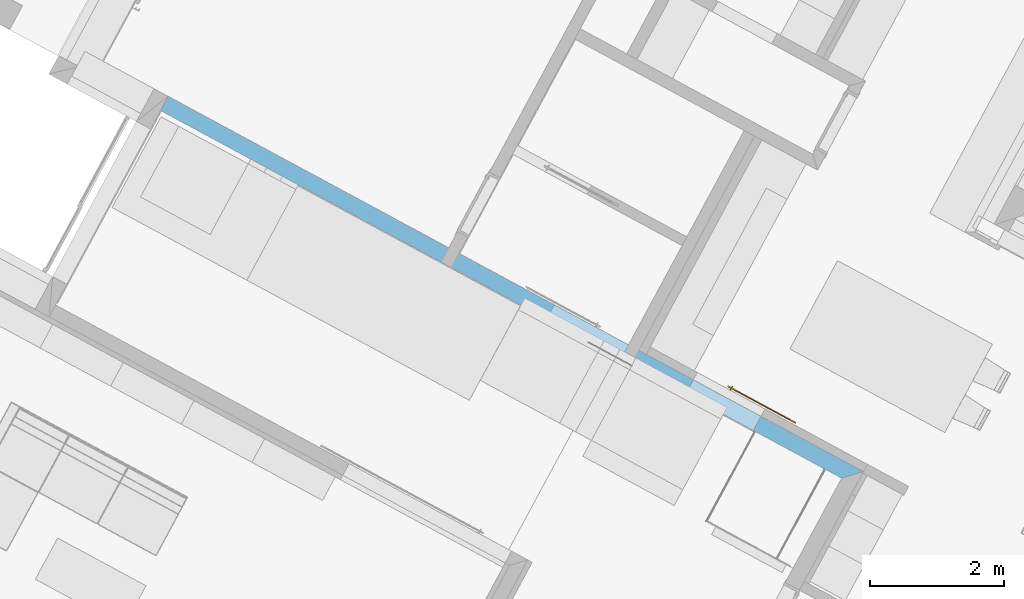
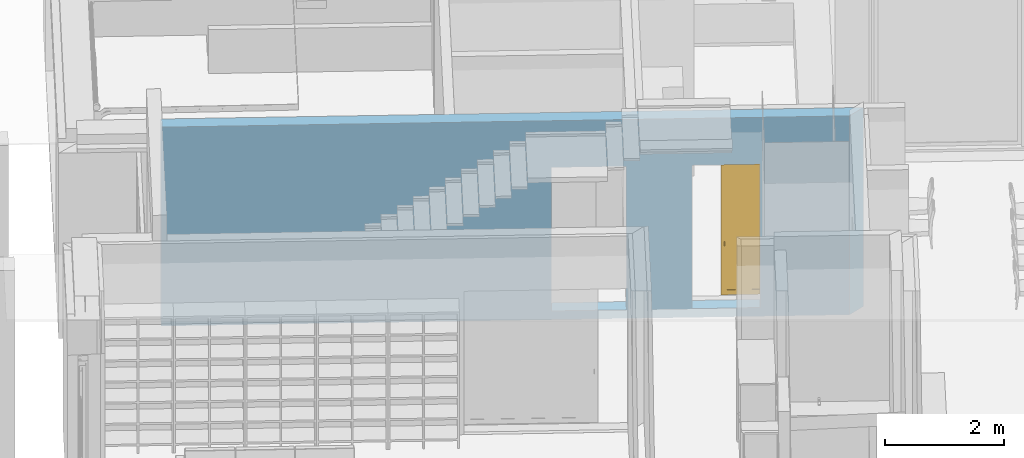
# One storey, part 7 of 36: 1 door, 2 openings, plus 1 element that does not belong to this part.
"""IFC2X3 building model written with IfcOpenShell, lengths in metres."""

from ifc_helpers import new_model, entity, si_unit, converted_unit, derived_unit, money_unit, direction, frame, origin_with_axes, origin_2d_with_axis, place, context, subcontext, project, spatial, polyline, rectangle, outline, extrude, faceted_brep, material, layer, layer_set, layer_usage, type_object, element, fill, save


model = new_model("IFC2X3")

# Units and contexts
model_context = context("Model", 3, precision=1e-05, world=origin_with_axes(), true_north=direction((0.0, 1.0)))
body_context = subcontext(model_context, "Body", "Model", "MODEL_VIEW")
ifc_project = project(units=[si_unit("LENGTHUNIT", "METRE"), si_unit("AREAUNIT", "SQUARE_METRE"), si_unit("VOLUMEUNIT", "CUBIC_METRE"), converted_unit("PLANEANGLEUNIT", "DEGREE", entity("IfcPlaneAngleMeasure", 0.0174532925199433), si_unit("PLANEANGLEUNIT", "RADIAN"), dimensions=[0, 0, 0, 0, 0, 0, 0]), money_unit("EUR"), converted_unit("TIMEUNIT", "Year", entity("IfcTimeMeasure", 31556926.0), si_unit("TIMEUNIT", "SECOND"), dimensions=[0, 0, 1, 0, 0, 0, 0]), si_unit("MASSUNIT", "GRAM", prefix="KILO"), si_unit("THERMODYNAMICTEMPERATUREUNIT", "DEGREE_CELSIUS"), si_unit("LUMINOUSINTENSITYUNIT", "LUMEN"), si_unit("ENERGYUNIT", "JOULE", prefix="MEGA"), derived_unit("THERMALCONDUCTANCEUNIT", [(si_unit("POWERUNIT", "WATT"), 1), (si_unit("LENGTHUNIT", "METRE"), -1), (si_unit("THERMODYNAMICTEMPERATUREUNIT", "KELVIN"), -1)]), derived_unit("SPECIFICHEATCAPACITYUNIT", [(si_unit("ENERGYUNIT", "JOULE"), 1), (si_unit("MASSUNIT", "GRAM", prefix="KILO"), -1), (si_unit("THERMODYNAMICTEMPERATUREUNIT", "KELVIN"), -1)]), derived_unit("MASSDENSITYUNIT", [(si_unit("MASSUNIT", "GRAM", prefix="KILO"), 1), (si_unit("VOLUMEUNIT", "CUBIC_METRE"), -1)])], contexts=[model_context])

# Site, building, storey
site_placement = place(None, frame((-3.949935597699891, 1.740105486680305, 0.0), z_axis=(0.0, 0.0, 1.0), x_axis=(0.8799804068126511, -0.475009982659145, 0.0)))
site = spatial("IfcSite", under=ifc_project, at=site_placement, Name="Gelände", CompositionType="ELEMENT")
building_placement = place(site_placement, origin_with_axes())
building = spatial("IfcBuilding", under=site, at=building_placement, Name="Gebäude", CompositionType="ELEMENT")
storey_placement = place(building_placement, origin_with_axes())
storey = spatial("IfcBuildingStorey", under=building, at=storey_placement, Name="Erdgeschoss", CompositionType="ELEMENT", Elevation=0.0)

# Wall, openings, door
ifc_material = material(Name="_SIWH - Beton, Stahlbeton")
ifc_layer = layer(ifc_material, 0.24, ventilated="UNKNOWN")
ifc_layer_set = layer_set([ifc_layer], Name="_SIWH - WI | Stb. 24 | 24cm")
ifc_layer_usage = layer_usage(ifc_layer_set, "AXIS2", "NEGATIVE", 0.0)
wall_type = type_object("IfcWallType", Name="_SIWH - WI | Stb. 24 | 24cm 240", PredefinedType="NOTDEFINED")
wall_placement = place(storey_placement, frame((5.59748143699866, 10.89780061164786, -0.18), z_axis=(0.0, 0.0, 1.0), x_axis=(0.9999999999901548, 4.437408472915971e-06, 0.0)))
wall = element("IfcWallStandardCase", 1, at=wall_placement, inside=storey, type_object=wall_type, material=ifc_layer_usage, Name="I-Wand005", ObjectType="NOTDEFINED", context=body_context, shape_type="SweptSolid", body=[
    extrude(outline(polyline([(0.0, -0.240000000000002), (11.57000574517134, -0.240000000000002), (11.81000681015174, 0.0), (0.0, 0.0), (0.0, -0.240000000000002)])), origin_with_axes(), (0.0, 0.0, 1.0), 4.080000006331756),
])
opening_1_placement = place(wall_placement, frame((7.190006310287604, 0.0, 0.18), z_axis=(0.0, 0.0, 1.0), x_axis=(1.0, 0.0, 0.0)))
element("IfcOpeningElement", 2, at=opening_1_placement, cuts=wall, Name="I-Wand061", context=body_context, shape_type="SweptSolid", body=[
    extrude(rectangle(XDim=1.260000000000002, YDim=2.94, at=origin_2d_with_axis()), frame((1.153655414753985e-06, 0.01996809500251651, 1.47), z_axis=(4.437408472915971e-06, 0.9999999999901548, 0.0), x_axis=(0.9999999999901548, -4.437408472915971e-06, 0.0)), (0.0, 0.0, -1.0), 0.5),
    extrude(rectangle(XDim=1.260000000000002, YDim=2.94, at=origin_2d_with_axis()), frame((1.153655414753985e-06, 0.01996809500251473, 1.47), z_axis=(-4.437408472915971e-06, -0.9999999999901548, 0.0), x_axis=(0.9999999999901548, -4.437408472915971e-06, 0.0)), (0.0, 0.0, -1.0), 0.26),
])
opening_2_placement = place(wall_placement, frame((9.495005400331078, 0.0, 0.18), z_axis=(0.0, 0.0, 1.0), x_axis=(1.0, 0.0, 0.0)))
opening_2 = element("IfcOpeningElement", 3, at=opening_2_placement, cuts=wall, Name="I-Wand062", context=body_context, shape_type="SweptSolid", body=[
    extrude(rectangle(XDim=1.149999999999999, YDim=2.94, at=origin_2d_with_axis()), frame((0.0, -0.2400000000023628, 1.47), z_axis=(-4.437408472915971e-06, -0.9999999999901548, 0.0), x_axis=(-0.9999999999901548, 4.437408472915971e-06, 0.0)), (0.0, 0.0, -1.0), 0.895),
])
door_style = type_object("IfcDoorStyle", Name="Schiebetür 02 1-Fl 26", ConstructionType="NOTDEFINED", OperationType="SLIDING_TO_LEFT", ParameterTakesPrecedence=False, Sizeable=False)
door_placement = place(opening_2_placement, frame((-0.5750000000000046, 0.0, 0.0), z_axis=(0.0, 0.0, 1.0), x_axis=(1.0, 0.0, 0.0)))
door = element("IfcDoor", 4, at=door_placement, inside=storey, type_object=door_style, Name="I-Wand062", ObjectType="DOOR", OverallHeight=2.94, OverallWidth=1.15, context=body_context, shape_type="Brep", body=[
    faceted_brep([(1.64995181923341, 0.1699530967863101, 0.09999999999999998), (1.64995173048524, 0.1499530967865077, 0.09999999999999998), (1.549951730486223, 0.1499535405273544, 0.09999999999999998), (1.549951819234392, 0.1699535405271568, 0.09999999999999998), (1.64995181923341, 0.1699530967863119, 2.8399), (1.64995173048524, 0.1499530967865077, 2.8399), (1.549951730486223, 0.1499535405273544, 2.8399), (1.549951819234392, 0.1699535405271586, 2.8399)], [[[0, 1, 2, 3]], [[4, 5, 1, 0]], [[1, 5, 6, 2]], [[3, 2, 6, 7]], [[0, 3, 7, 4]], [[7, 6, 5, 4]]]),
    faceted_brep([(0.5000518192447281, 0.1699581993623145, 2.8399), (0.5000517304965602, 0.1499581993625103, 2.8399), (0.6000517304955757, 0.1499577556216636, 2.8399), (0.6000518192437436, 0.1699577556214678, 2.8399), (0.5000518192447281, 0.1699581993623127, 0.09999999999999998), (0.5000517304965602, 0.1499581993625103, 0.09999999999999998), (0.6000517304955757, 0.1499577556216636, 0.09999999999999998), (0.6000518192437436, 0.169957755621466, 0.09999999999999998)], [[[0, 1, 2, 3]], [[4, 5, 1, 0]], [[1, 5, 6, 2]], [[3, 2, 6, 7]], [[0, 3, 7, 4]], [[7, 6, 5, 4]]]),
    faceted_brep([(0.5000518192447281, 0.1699581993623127, 0.0), (0.5000517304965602, 0.1499581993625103, 0.0), (0.5000517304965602, 0.1499581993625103, 0.09999999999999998), (0.5000518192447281, 0.1699581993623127, 0.09999999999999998), (1.64995181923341, 0.1699530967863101, 0.0), (1.64995173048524, 0.1499530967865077, 0.0), (1.64995173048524, 0.1499530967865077, 0.09999999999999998), (1.549951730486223, 0.1499535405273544, 0.09999999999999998), (0.6000517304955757, 0.1499577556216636, 0.09999999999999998), (0.6000518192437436, 0.169957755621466, 0.09999999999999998), (1.549951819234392, 0.1699535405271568, 0.09999999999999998), (1.64995181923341, 0.1699530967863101, 0.09999999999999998)], [[[0, 1, 2, 3]], [[4, 5, 1, 0]], [[1, 5, 6, 7, 8, 2]], [[3, 2, 8, 9]], [[0, 3, 9, 10, 11, 4]], [[11, 6, 5, 4]], [[10, 7, 6, 11]], [[9, 8, 7, 10]]]),
    faceted_brep([(1.64995181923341, 0.1699530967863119, 2.9399), (1.64995173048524, 0.1499530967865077, 2.9399), (1.64995173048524, 0.1499530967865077, 2.8399), (1.64995181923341, 0.1699530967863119, 2.8399), (0.5000518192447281, 0.1699581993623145, 2.9399), (0.5000517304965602, 0.1499581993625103, 2.9399), (0.5000517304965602, 0.1499581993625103, 2.8399), (0.6000517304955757, 0.1499577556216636, 2.8399), (1.549951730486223, 0.1499535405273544, 2.8399), (1.549951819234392, 0.1699535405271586, 2.8399), (0.6000518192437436, 0.1699577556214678, 2.8399), (0.5000518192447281, 0.1699581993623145, 2.8399)], [[[0, 1, 2, 3]], [[4, 5, 1, 0]], [[1, 5, 6, 7, 8, 2]], [[3, 2, 8, 9]], [[0, 3, 9, 10, 11, 4]], [[11, 6, 5, 4]], [[10, 7, 6, 11]], [[9, 8, 7, 10]]]),
    faceted_brep([(1.549951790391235, 0.1634535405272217, 0.09999999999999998), (1.549951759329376, 0.1564535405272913, 0.09999999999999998), (0.6000517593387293, 0.1564577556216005, 0.09999999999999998), (0.60005179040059, 0.1634577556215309, 0.09999999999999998), (1.549951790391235, 0.1634535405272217, 2.8399), (1.549951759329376, 0.1564535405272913, 2.8399), (0.6000517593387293, 0.1564577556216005, 2.8399), (0.60005179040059, 0.1634577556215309, 2.8399)], [[[0, 1, 2, 3]], [[4, 5, 1, 0]], [[1, 5, 6, 2]], [[3, 2, 6, 7]], [[0, 3, 7, 4]], [[7, 6, 5, 4]]]),
    faceted_brep([(0.5670516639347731, 0.134957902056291, 1.085980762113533), (0.5670517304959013, 0.1499579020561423, 1.09), (0.5661139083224, 0.1499579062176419, 1.0935), (0.5661138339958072, 0.1332079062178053, 1.089011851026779), (0.5661138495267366, 0.1367079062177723, 1.082949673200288), (0.5661139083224, 0.1499579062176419, 1.0865), (0.5635517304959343, 0.1499579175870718, 1.083937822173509), (0.5600517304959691, 0.1499579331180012, 1.083), (0.5565517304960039, 0.1499579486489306, 1.083937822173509), (0.5539895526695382, 0.1499579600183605, 1.0865), (0.5530517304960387, 0.1499579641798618, 1.09), (0.5539895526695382, 0.1499579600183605, 1.0935), (0.5565517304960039, 0.1499579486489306, 1.096062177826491), (0.5600517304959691, 0.1499579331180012, 1.097), (0.5635517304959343, 0.1499579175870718, 1.096062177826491), (0.5635516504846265, 0.1319268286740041, 1.091230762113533), (0.567051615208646, 0.1239771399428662, 1.075), (0.5661137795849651, 0.1209460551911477, 1.07675), (0.5635516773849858, 0.137989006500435, 1.080730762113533), (0.5661138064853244, 0.1270082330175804, 1.07325), (0.5600516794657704, 0.1384579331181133, 1.079918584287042), (0.5565516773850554, 0.1379890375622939, 1.080730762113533), (0.5539894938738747, 0.1367079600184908, 1.082949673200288), (0.5530516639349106, 0.1349579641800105, 1.085980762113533), (0.5539894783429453, 0.1332079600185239, 1.089011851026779), (0.5565516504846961, 0.1319268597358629, 1.091230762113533), (0.5600516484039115, 0.1314579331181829, 1.092042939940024), (0.5635515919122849, 0.1187271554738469, 1.078031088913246), (0.5670515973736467, 0.1199579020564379, 1.06), (0.5661137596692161, 0.1164579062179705, 1.06), (0.563551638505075, 0.1292271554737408, 1.071968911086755), (0.5661137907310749, 0.1234579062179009, 1.06), (0.5600516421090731, 0.1300393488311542, 1.0715), (0.5565516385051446, 0.1292271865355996, 1.071968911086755), (0.5539894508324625, 0.1270082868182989, 1.07325), (0.5530516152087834, 0.1239772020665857, 1.075), (0.5539894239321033, 0.1209461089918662, 1.07675), (0.5565515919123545, 0.1187271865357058, 1.078031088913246), (0.5600515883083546, 0.1179149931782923, 1.0785), (0.5635515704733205, 0.1138957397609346, 1.06), (0.5600515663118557, 0.1129579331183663, 1.06), (0.5565515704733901, 0.1138957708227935, 1.06), (0.5539894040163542, 0.116457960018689, 1.06), (0.5530515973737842, 0.1199579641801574, 1.06), (0.5539894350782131, 0.1234579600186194, 1.06), (0.5565516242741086, 0.1260201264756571, 1.06), (0.5600516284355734, 0.1269579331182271, 1.06), (0.563551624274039, 0.1260200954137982, 1.06)], [[[0, 1, 2, 3]], [[4, 5, 1, 0]], [[1, 5, 6, 7, 8, 9, 10, 11, 12, 13, 14, 2]], [[3, 2, 14, 15]], [[16, 0, 3, 17]], [[18, 6, 5, 4]], [[19, 4, 0, 16]], [[20, 7, 6, 18]], [[21, 8, 7, 20]], [[22, 9, 8, 21]], [[23, 10, 9, 22]], [[24, 11, 10, 23]], [[25, 12, 11, 24]], [[26, 13, 12, 25]], [[15, 14, 13, 26]], [[17, 3, 15, 27]], [[28, 16, 17, 29]], [[30, 18, 4, 19]], [[31, 19, 16, 28]], [[32, 20, 18, 30]], [[33, 21, 20, 32]], [[34, 22, 21, 33]], [[35, 23, 22, 34]], [[36, 24, 23, 35]], [[37, 25, 24, 36]], [[38, 26, 25, 37]], [[27, 15, 26, 38]], [[29, 17, 27, 39]], [[28, 29, 39, 40, 41, 42, 43, 44, 45, 46, 47, 31]], [[47, 30, 19, 31]], [[46, 32, 30, 47]], [[45, 33, 32, 46]], [[44, 34, 33, 45]], [[43, 35, 34, 44]], [[42, 36, 35, 43]], [[41, 37, 36, 42]], [[40, 38, 37, 41]], [[39, 27, 38, 40]]]),
    faceted_brep([(0.5530516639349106, 0.1349579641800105, 1.014019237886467), (0.5530517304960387, 0.1499579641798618, 1.01), (0.5539895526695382, 0.1499579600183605, 1.0065), (0.5539894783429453, 0.1332079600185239, 1.010988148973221), (0.5539894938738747, 0.1367079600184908, 1.017050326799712), (0.5539895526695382, 0.1499579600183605, 1.0135), (0.5565517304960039, 0.1499579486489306, 1.016062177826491), (0.5600517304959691, 0.1499579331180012, 1.017), (0.5635517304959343, 0.1499579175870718, 1.016062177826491), (0.5661139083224, 0.1499579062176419, 1.0135), (0.5670517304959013, 0.1499579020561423, 1.01), (0.5661139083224, 0.1499579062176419, 1.0065), (0.5635517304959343, 0.1499579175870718, 1.003937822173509), (0.5600517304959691, 0.1499579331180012, 1.003), (0.5565517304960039, 0.1499579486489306, 1.003937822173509), (0.5565516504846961, 0.1319268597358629, 1.008769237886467), (0.5530516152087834, 0.1239772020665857, 1.025), (0.5539894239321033, 0.1209461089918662, 1.02325), (0.5565516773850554, 0.1379890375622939, 1.019269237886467), (0.5539894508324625, 0.1270082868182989, 1.02675), (0.5600516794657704, 0.1384579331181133, 1.020081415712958), (0.5635516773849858, 0.137989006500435, 1.019269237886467), (0.5661138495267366, 0.1367079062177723, 1.017050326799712), (0.5670516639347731, 0.134957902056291, 1.014019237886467), (0.5661138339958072, 0.1332079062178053, 1.010988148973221), (0.5635516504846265, 0.1319268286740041, 1.008769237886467), (0.5600516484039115, 0.1314579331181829, 1.007957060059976), (0.5565515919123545, 0.1187271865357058, 1.021968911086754), (0.5530515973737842, 0.1199579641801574, 1.04), (0.5539894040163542, 0.116457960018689, 1.04), (0.5565516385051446, 0.1292271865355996, 1.028031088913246), (0.5539894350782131, 0.1234579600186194, 1.04), (0.5600516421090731, 0.1300393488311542, 1.0285), (0.563551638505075, 0.1292271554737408, 1.028031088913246), (0.5661138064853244, 0.1270082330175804, 1.02675), (0.567051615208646, 0.1239771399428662, 1.025), (0.5661137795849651, 0.1209460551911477, 1.02325), (0.5635515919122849, 0.1187271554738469, 1.021968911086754), (0.5600515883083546, 0.1179149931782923, 1.0215), (0.5565515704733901, 0.1138957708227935, 1.04), (0.5600515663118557, 0.1129579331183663, 1.04), (0.5635515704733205, 0.1138957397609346, 1.04), (0.5661137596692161, 0.1164579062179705, 1.04), (0.5670515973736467, 0.1199579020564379, 1.04), (0.5661137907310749, 0.1234579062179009, 1.04), (0.563551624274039, 0.1260200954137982, 1.04), (0.5600516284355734, 0.1269579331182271, 1.04), (0.5565516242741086, 0.1260201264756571, 1.04)], [[[0, 1, 2, 3]], [[4, 5, 1, 0]], [[1, 5, 6, 7, 8, 9, 10, 11, 12, 13, 14, 2]], [[3, 2, 14, 15]], [[16, 0, 3, 17]], [[18, 6, 5, 4]], [[19, 4, 0, 16]], [[20, 7, 6, 18]], [[21, 8, 7, 20]], [[22, 9, 8, 21]], [[23, 10, 9, 22]], [[24, 11, 10, 23]], [[25, 12, 11, 24]], [[26, 13, 12, 25]], [[15, 14, 13, 26]], [[17, 3, 15, 27]], [[28, 16, 17, 29]], [[30, 18, 4, 19]], [[31, 19, 16, 28]], [[32, 20, 18, 30]], [[33, 21, 20, 32]], [[34, 22, 21, 33]], [[35, 23, 22, 34]], [[36, 24, 23, 35]], [[37, 25, 24, 36]], [[38, 26, 25, 37]], [[27, 15, 26, 38]], [[29, 17, 27, 39]], [[28, 29, 39, 40, 41, 42, 43, 44, 45, 46, 47, 31]], [[47, 30, 19, 31]], [[46, 32, 30, 47]], [[45, 33, 32, 46]], [[44, 34, 33, 45]], [[43, 35, 34, 44]], [[42, 36, 35, 43]], [[41, 37, 36, 42]], [[40, 38, 37, 41]], [[39, 27, 38, 40]]]),
    faceted_brep([(0.5670515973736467, 0.1199579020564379, 1.04), (0.5661137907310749, 0.1234579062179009, 1.04), (0.5661137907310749, 0.1234579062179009, 1.06), (0.5670515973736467, 0.1199579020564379, 1.06), (0.5661137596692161, 0.1164579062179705, 1.04), (0.5635515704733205, 0.1138957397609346, 1.04), (0.5600515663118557, 0.1129579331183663, 1.04), (0.5565515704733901, 0.1138957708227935, 1.04), (0.5539894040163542, 0.116457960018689, 1.04), (0.5530515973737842, 0.1199579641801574, 1.04), (0.5539894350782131, 0.1234579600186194, 1.04), (0.5565516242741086, 0.1260201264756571, 1.04), (0.5600516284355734, 0.1269579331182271, 1.04), (0.563551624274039, 0.1260200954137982, 1.04), (0.563551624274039, 0.1260200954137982, 1.06), (0.5600516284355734, 0.1269579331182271, 1.06), (0.5565516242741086, 0.1260201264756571, 1.06), (0.5539894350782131, 0.1234579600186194, 1.06), (0.5530515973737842, 0.1199579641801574, 1.06), (0.5539894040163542, 0.116457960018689, 1.06), (0.5565515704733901, 0.1138957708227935, 1.06), (0.5600515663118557, 0.1129579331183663, 1.06), (0.5635515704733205, 0.1138957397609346, 1.06), (0.5661137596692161, 0.1164579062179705, 1.06)], [[[0, 1, 2, 3]], [[0, 4, 5, 6, 7, 8, 9, 10, 11, 12, 13, 1]], [[1, 13, 14, 2]], [[3, 2, 14, 15, 16, 17, 18, 19, 20, 21, 22, 23]], [[4, 0, 3, 23]], [[5, 4, 23, 22]], [[6, 5, 22, 21]], [[7, 6, 21, 20]], [[8, 7, 20, 19]], [[9, 8, 19, 18]], [[10, 9, 18, 17]], [[11, 10, 17, 16]], [[12, 11, 16, 15]], [[13, 12, 15, 14]]]),
    faceted_brep([(0.5670518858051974, 0.1849579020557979, 1.085980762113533), (0.5661140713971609, 0.1867079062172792, 1.089011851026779), (0.566113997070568, 0.1699579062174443, 1.0935), (0.5670518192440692, 0.1699579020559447, 1.09), (0.5670519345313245, 0.1959386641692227, 1.075), (0.5661141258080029, 0.1989697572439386, 1.07675), (0.56355189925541, 0.1879890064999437, 1.091230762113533), (0.5635518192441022, 0.1699579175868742, 1.096062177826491), (0.560051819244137, 0.1699579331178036, 1.097), (0.5565518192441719, 0.169957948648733, 1.096062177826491), (0.5539896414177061, 0.1699579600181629, 1.0935), (0.5530518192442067, 0.1699579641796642, 1.09), (0.5539896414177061, 0.1699579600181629, 1.0865), (0.5565518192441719, 0.169957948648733, 1.083937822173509), (0.560051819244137, 0.1699579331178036, 1.083), (0.5635518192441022, 0.1699579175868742, 1.083937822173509), (0.566113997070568, 0.1699579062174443, 1.0865), (0.5661140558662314, 0.183207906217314, 1.082949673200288), (0.5670519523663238, 0.1999579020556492, 1.06), (0.566114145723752, 0.203457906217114, 1.06), (0.5635519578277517, 0.2011886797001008, 1.078031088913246), (0.5661140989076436, 0.1929075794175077, 1.07325), (0.5600519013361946, 0.1884579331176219, 1.092042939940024), (0.5565518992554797, 0.1879890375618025, 1.091230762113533), (0.553989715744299, 0.1867079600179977, 1.089011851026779), (0.5530518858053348, 0.1849579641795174, 1.085980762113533), (0.5539897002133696, 0.1832079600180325, 1.082949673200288), (0.5565518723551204, 0.1819268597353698, 1.080730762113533), (0.5600518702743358, 0.1814579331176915, 1.079918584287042), (0.5635518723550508, 0.181926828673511, 1.080730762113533), (0.5661141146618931, 0.1964579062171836, 1.06), (0.5635519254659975, 0.1938957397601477, 1.06), (0.5600519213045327, 0.1929579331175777, 1.06), (0.5565519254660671, 0.1938957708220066, 1.06), (0.5539897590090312, 0.1964579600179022, 1.06), (0.5530519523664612, 0.1999579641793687, 1.06), (0.5539897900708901, 0.2034579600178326, 1.06), (0.5565519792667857, 0.2060201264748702, 1.06), (0.5600519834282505, 0.2069579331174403, 1.06), (0.5635519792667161, 0.2060200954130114, 1.06), (0.5600519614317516, 0.2020008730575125, 1.0785), (0.5635519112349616, 0.1906886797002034, 1.071968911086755), (0.5565519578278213, 0.2011887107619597, 1.078031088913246), (0.5539897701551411, 0.1989698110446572, 1.07675), (0.553051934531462, 0.1959387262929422, 1.075), (0.5539897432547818, 0.1929076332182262, 1.07325), (0.5565519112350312, 0.1906887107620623, 1.071968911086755), (0.5600519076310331, 0.1898765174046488, 1.0715)], [[[0, 1, 2, 3]], [[4, 5, 1, 0]], [[1, 6, 7, 2]], [[3, 2, 7, 8, 9, 10, 11, 12, 13, 14, 15, 16]], [[17, 0, 3, 16]], [[18, 19, 5, 4]], [[5, 20, 6, 1]], [[21, 4, 0, 17]], [[6, 22, 8, 7]], [[22, 23, 9, 8]], [[23, 24, 10, 9]], [[24, 25, 11, 10]], [[25, 26, 12, 11]], [[26, 27, 13, 12]], [[27, 28, 14, 13]], [[28, 29, 15, 14]], [[29, 17, 16, 15]], [[18, 30, 31, 32, 33, 34, 35, 36, 37, 38, 39, 19]], [[19, 39, 20, 5]], [[30, 18, 4, 21]], [[20, 40, 22, 6]], [[41, 21, 17, 29]], [[40, 42, 23, 22]], [[42, 43, 24, 23]], [[43, 44, 25, 24]], [[44, 45, 26, 25]], [[45, 46, 27, 26]], [[46, 47, 28, 27]], [[47, 41, 29, 28]], [[31, 30, 21, 41]], [[32, 31, 41, 47]], [[33, 32, 47, 46]], [[34, 33, 46, 45]], [[35, 34, 45, 44]], [[36, 35, 44, 43]], [[37, 36, 43, 42]], [[38, 37, 42, 40]], [[39, 38, 40, 20]]]),
    faceted_brep([(0.5530518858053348, 0.1849579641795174, 1.014019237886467), (0.553989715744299, 0.1867079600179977, 1.010988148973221), (0.5539896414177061, 0.1699579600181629, 1.0065), (0.5530518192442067, 0.1699579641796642, 1.01), (0.553051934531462, 0.1959387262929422, 1.025), (0.5539897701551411, 0.1989698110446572, 1.02325), (0.5565518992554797, 0.1879890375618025, 1.008769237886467), (0.5565518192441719, 0.169957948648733, 1.003937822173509), (0.560051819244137, 0.1699579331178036, 1.003), (0.5635518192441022, 0.1699579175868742, 1.003937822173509), (0.566113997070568, 0.1699579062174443, 1.0065), (0.5670518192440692, 0.1699579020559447, 1.01), (0.566113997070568, 0.1699579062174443, 1.0135), (0.5635518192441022, 0.1699579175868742, 1.016062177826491), (0.560051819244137, 0.1699579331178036, 1.017), (0.5565518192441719, 0.169957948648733, 1.016062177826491), (0.5539896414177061, 0.1699579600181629, 1.0135), (0.5539897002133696, 0.1832079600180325, 1.017050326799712), (0.5530519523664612, 0.1999579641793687, 1.04), (0.5539897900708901, 0.2034579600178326, 1.04), (0.5565519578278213, 0.2011887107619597, 1.021968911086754), (0.5539897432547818, 0.1929076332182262, 1.02675), (0.5600519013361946, 0.1884579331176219, 1.007957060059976), (0.56355189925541, 0.1879890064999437, 1.008769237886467), (0.5661140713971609, 0.1867079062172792, 1.010988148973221), (0.5670518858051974, 0.1849579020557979, 1.014019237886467), (0.5661140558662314, 0.183207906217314, 1.017050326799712), (0.5635518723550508, 0.181926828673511, 1.019269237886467), (0.5600518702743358, 0.1814579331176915, 1.020081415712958), (0.5565518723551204, 0.1819268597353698, 1.019269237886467), (0.5539897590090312, 0.1964579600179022, 1.04), (0.5565519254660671, 0.1938957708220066, 1.04), (0.5600519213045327, 0.1929579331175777, 1.04), (0.5635519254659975, 0.1938957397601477, 1.04), (0.5661141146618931, 0.1964579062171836, 1.04), (0.5670519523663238, 0.1999579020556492, 1.04), (0.566114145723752, 0.203457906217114, 1.04), (0.5635519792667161, 0.2060200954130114, 1.04), (0.5600519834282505, 0.2069579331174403, 1.04), (0.5565519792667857, 0.2060201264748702, 1.04), (0.5600519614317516, 0.2020008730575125, 1.0215), (0.5565519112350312, 0.1906887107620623, 1.028031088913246), (0.5635519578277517, 0.2011886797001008, 1.021968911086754), (0.5661141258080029, 0.1989697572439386, 1.02325), (0.5670519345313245, 0.1959386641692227, 1.025), (0.5661140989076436, 0.1929075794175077, 1.02675), (0.5635519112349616, 0.1906886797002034, 1.028031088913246), (0.5600519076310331, 0.1898765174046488, 1.0285)], [[[0, 1, 2, 3]], [[4, 5, 1, 0]], [[1, 6, 7, 2]], [[3, 2, 7, 8, 9, 10, 11, 12, 13, 14, 15, 16]], [[17, 0, 3, 16]], [[18, 19, 5, 4]], [[5, 20, 6, 1]], [[21, 4, 0, 17]], [[6, 22, 8, 7]], [[22, 23, 9, 8]], [[23, 24, 10, 9]], [[24, 25, 11, 10]], [[25, 26, 12, 11]], [[26, 27, 13, 12]], [[27, 28, 14, 13]], [[28, 29, 15, 14]], [[29, 17, 16, 15]], [[18, 30, 31, 32, 33, 34, 35, 36, 37, 38, 39, 19]], [[19, 39, 20, 5]], [[30, 18, 4, 21]], [[20, 40, 22, 6]], [[41, 21, 17, 29]], [[40, 42, 23, 22]], [[42, 43, 24, 23]], [[43, 44, 25, 24]], [[44, 45, 26, 25]], [[45, 46, 27, 26]], [[46, 47, 28, 27]], [[47, 41, 29, 28]], [[31, 30, 21, 41]], [[32, 31, 41, 47]], [[33, 32, 47, 46]], [[34, 33, 46, 45]], [[35, 34, 45, 44]], [[36, 35, 44, 43]], [[37, 36, 43, 42]], [[38, 37, 42, 40]], [[39, 38, 40, 20]]]),
    faceted_brep([(0.5670519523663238, 0.1999579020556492, 1.04), (0.5670519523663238, 0.1999579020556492, 1.06), (0.5661141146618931, 0.1964579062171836, 1.06), (0.5661141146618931, 0.1964579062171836, 1.04), (0.566114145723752, 0.203457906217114, 1.04), (0.566114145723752, 0.203457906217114, 1.06), (0.5635519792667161, 0.2060200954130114, 1.06), (0.5600519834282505, 0.2069579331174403, 1.06), (0.5565519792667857, 0.2060201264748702, 1.06), (0.5539897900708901, 0.2034579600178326, 1.06), (0.5530519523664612, 0.1999579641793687, 1.06), (0.5539897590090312, 0.1964579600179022, 1.06), (0.5565519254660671, 0.1938957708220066, 1.06), (0.5600519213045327, 0.1929579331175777, 1.06), (0.5635519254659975, 0.1938957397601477, 1.06), (0.5635519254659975, 0.1938957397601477, 1.04), (0.5600519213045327, 0.1929579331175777, 1.04), (0.5565519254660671, 0.1938957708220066, 1.04), (0.5539897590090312, 0.1964579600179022, 1.04), (0.5530519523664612, 0.1999579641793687, 1.04), (0.5539897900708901, 0.2034579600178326, 1.04), (0.5565519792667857, 0.2060201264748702, 1.04), (0.5600519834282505, 0.2069579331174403, 1.04), (0.5635519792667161, 0.2060200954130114, 1.04)], [[[0, 1, 2, 3]], [[4, 5, 1, 0]], [[1, 5, 6, 7, 8, 9, 10, 11, 12, 13, 14, 2]], [[3, 2, 14, 15]], [[0, 3, 15, 16, 17, 18, 19, 20, 21, 22, 23, 4]], [[23, 6, 5, 4]], [[22, 7, 6, 23]], [[21, 8, 7, 22]], [[20, 9, 8, 21]], [[19, 10, 9, 20]], [[18, 11, 10, 19]], [[17, 12, 11, 18]], [[16, 13, 12, 17]], [[15, 14, 13, 16]]]),
])
fill(opening_2, door)

save(model, "model.ifc")
